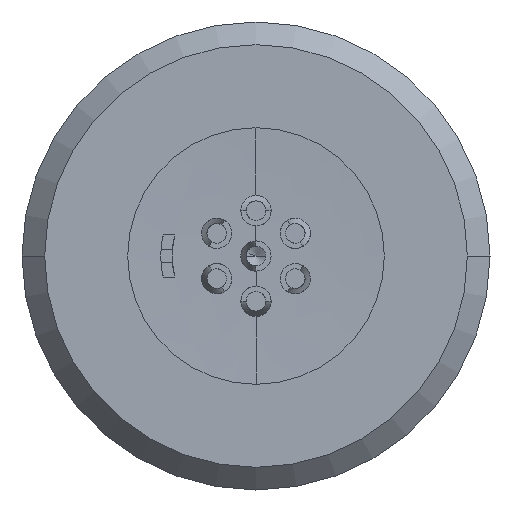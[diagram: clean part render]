
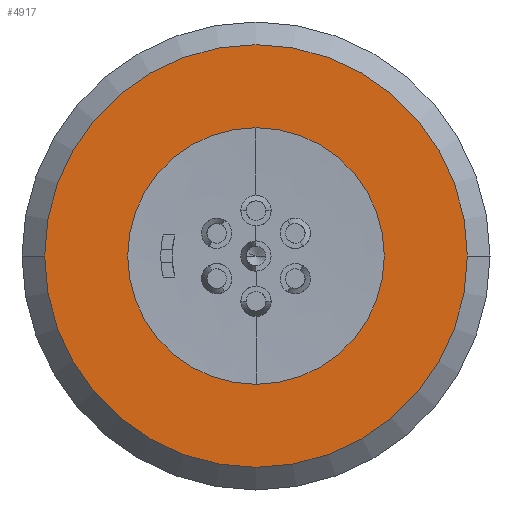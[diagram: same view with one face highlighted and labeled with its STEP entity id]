
A CAD part, left-side view. The second image highlights one B-rep face of the part: STEP entity #4917.
In plain terms, the highlighted planar face has unit normal (-1, 0, 0).
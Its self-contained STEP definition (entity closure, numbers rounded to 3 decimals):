
#830=CARTESIAN_POINT('',(-15.5,0.,0.));
#831=DIRECTION('',(1.,0.,0.));
#832=DIRECTION('',(0.,-1.,0.));
#833=AXIS2_PLACEMENT_3D('',#830,#831,#832);
#835=CARTESIAN_POINT('',(-15.5,0.,0.));
#836=DIRECTION('',(1.,0.,0.));
#837=DIRECTION('',(0.,0.,-1.));
#838=AXIS2_PLACEMENT_3D('',#835,#836,#837);
#840=CARTESIAN_POINT('',(-15.5,0.,0.));
#841=DIRECTION('',(1.,0.,0.));
#842=DIRECTION('',(0.,1.,0.));
#843=AXIS2_PLACEMENT_3D('',#840,#841,#842);
#845=CARTESIAN_POINT('',(-15.5,0.,0.));
#846=DIRECTION('',(1.,0.,0.));
#847=DIRECTION('',(0.,0.,1.));
#848=AXIS2_PLACEMENT_3D('',#845,#846,#847);
#850=CARTESIAN_POINT('',(-15.5,0.,0.));
#851=DIRECTION('',(-1.,0.,0.));
#852=DIRECTION('',(0.,-1.,0.));
#853=AXIS2_PLACEMENT_3D('',#850,#851,#852);
#855=CARTESIAN_POINT('',(-15.5,0.,0.));
#856=DIRECTION('',(-1.,0.,0.));
#857=DIRECTION('',(0.,1.,0.));
#858=AXIS2_PLACEMENT_3D('',#855,#856,#857);
#3611=CARTESIAN_POINT('',(-15.5,0.,7.));
#3612=CARTESIAN_POINT('',(-15.5,-7.,0.));
#3613=VERTEX_POINT('',#3611);
#3614=VERTEX_POINT('',#3612);
#3615=CARTESIAN_POINT('',(-15.5,7.,0.));
#3616=VERTEX_POINT('',#3615);
#3617=CARTESIAN_POINT('',(-15.5,0.,-7.));
#3618=VERTEX_POINT('',#3617);
#3619=CARTESIAN_POINT('',(-15.5,-4.25,0.));
#3620=CARTESIAN_POINT('',(-15.5,4.25,0.));
#3621=VERTEX_POINT('',#3619);
#3622=VERTEX_POINT('',#3620);
#4898=CARTESIAN_POINT('',(-15.5,0.,0.));
#4899=DIRECTION('',(1.,0.,0.));
#4900=DIRECTION('',(0.,-1.,0.));
#4901=AXIS2_PLACEMENT_3D('',#4898,#4899,#4900);
#4902=PLANE('',#4901);
#4904=ORIENTED_EDGE('',*,*,#4903,.T.);
#4906=ORIENTED_EDGE('',*,*,#4905,.T.);
#4908=ORIENTED_EDGE('',*,*,#4907,.T.);
#4910=ORIENTED_EDGE('',*,*,#4909,.T.);
#4911=EDGE_LOOP('',(#4904,#4906,#4908,#4910));
#4912=FACE_OUTER_BOUND('',#4911,.F.);
#4913=ORIENTED_EDGE('',*,*,#4885,.T.);
#4914=ORIENTED_EDGE('',*,*,#4862,.T.);
#4915=EDGE_LOOP('',(#4913,#4914));
#4916=FACE_BOUND('',#4915,.F.);
#834=CIRCLE('',#833,7.);
#839=CIRCLE('',#838,7.);
#844=CIRCLE('',#843,7.);
#849=CIRCLE('',#848,7.);
#854=CIRCLE('',#853,4.25);
#859=CIRCLE('',#858,4.25);
#4862=EDGE_CURVE('',#3622,#3621,#859,.T.);
#4885=EDGE_CURVE('',#3621,#3622,#854,.T.);
#4903=EDGE_CURVE('',#3614,#3618,#834,.T.);
#4905=EDGE_CURVE('',#3618,#3616,#839,.T.);
#4907=EDGE_CURVE('',#3616,#3613,#844,.T.);
#4909=EDGE_CURVE('',#3613,#3614,#849,.T.);
#4917=ADVANCED_FACE('',(#4912,#4916),#4902,.F.);
